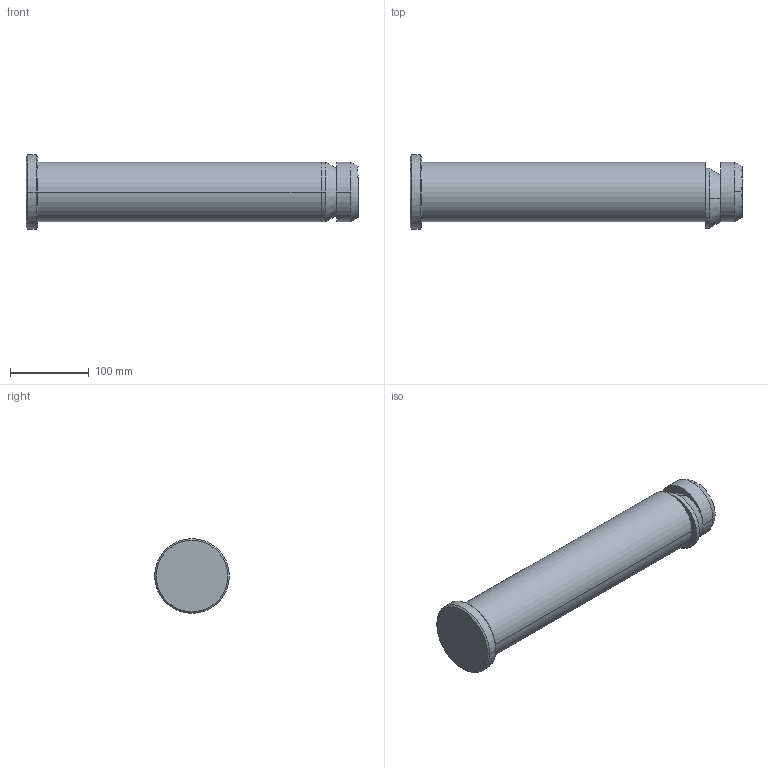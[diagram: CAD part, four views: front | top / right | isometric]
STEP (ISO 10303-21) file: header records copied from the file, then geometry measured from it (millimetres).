
FILE_DESCRIPTION(('CATIA V5 STEP Exchange'),'2;1');
FILE_NAME('C:\Users\Raffaele\Desktop\3D X SITO CF\PERNI -STAFFE SOLLEVAMENTO\395W\395W-076-422.stp','2019-07-05T12:08:48+00:00',('none'),('none'),'CATIA Version 5 Release 20 GA (IN-10)','CATIA V5 STEP AP203','none');
FILE_SCHEMA(('CONFIG_CONTROL_DESIGN'));
Length unit declared in the file: millimetre
Products named in the file (1): 395W-076-422
Bounding box: 422 x 95 x 95 mm (x, y, z)
Volume: 1907651 mm3; surface area: 128760.7 mm2
Topology: 1 solids, 1 shells, 27 faces, 62 edges, 40 vertices
Faces by surface type: cylinder 12, cone 8, plane 7
Entity records: 895 total; most frequent: CARTESIAN_POINT 245, ORIENTED_EDGE 124, DIRECTION 111, AXIS2_PLACEMENT_3D 63, EDGE_CURVE 62, VERTEX_POINT 40, CIRCLE 35, EDGE_LOOP 32
